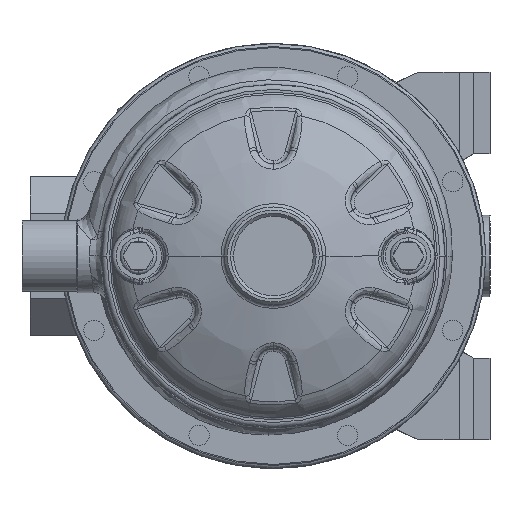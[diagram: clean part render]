
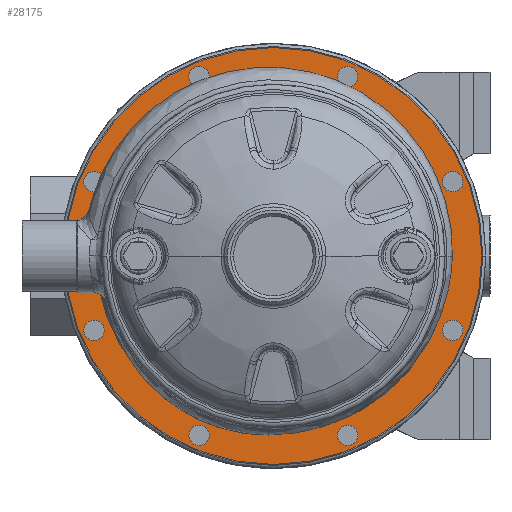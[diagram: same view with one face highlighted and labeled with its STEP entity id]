
A CAD part, left-side view. The second image highlights one B-rep face of the part: STEP entity #28175.
In plain terms, the highlighted planar face has unit normal (-1, 0, 0).
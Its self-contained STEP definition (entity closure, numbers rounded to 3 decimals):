
#19633=CARTESIAN_POINT('',(33.5,0.,
0.));
#19634=DIRECTION('',(1.,0.,0.));
#19635=DIRECTION('',(0.,-1.,0.));
#19636=AXIS2_PLACEMENT_3D('',#19633,#19634,#19635);
#19641=CARTESIAN_POINT('',(33.5,0.,
0.));
#19642=DIRECTION('',(1.,0.,0.));
#19643=DIRECTION('',(0.,1.,0.));
#19644=AXIS2_PLACEMENT_3D('',#19641,#19642,#19643);
#19649=CARTESIAN_POINT('',(33.5,0.,0.));
#19650=DIRECTION('',(-1.,0.,0.));
#19651=DIRECTION('',(0.,1.,0.));
#19652=AXIS2_PLACEMENT_3D('',#19649,#19650,#19651);
#19657=CARTESIAN_POINT('',(33.5,0.,0.));
#19658=DIRECTION('',(-1.,0.,0.));
#19659=DIRECTION('',(0.,-1.,0.));
#19660=AXIS2_PLACEMENT_3D('',#19657,#19658,#19659);
#19665=CARTESIAN_POINT('',(33.5,87.769,36.355));
#19666=DIRECTION('',(-1.,0.,0.));
#19667=DIRECTION('',(0.,0.,1.));
#19668=AXIS2_PLACEMENT_3D('',#19665,#19666,#19667);
#19673=CARTESIAN_POINT('',(33.5,87.769,36.355));
#19674=DIRECTION('',(-1.,0.,0.));
#19675=DIRECTION('',(0.,0.,-1.));
#19676=AXIS2_PLACEMENT_3D('',#19673,#19674,#19675);
#19681=CARTESIAN_POINT('',(33.5,36.355,87.769));
#19682=DIRECTION('',(-1.,0.,0.));
#19683=DIRECTION('',(0.,-0.707,0.707));
#19684=AXIS2_PLACEMENT_3D('',#19681,#19682,#19683);
#19689=CARTESIAN_POINT('',(33.5,36.355,87.769));
#19690=DIRECTION('',(-1.,0.,0.));
#19691=DIRECTION('',(0.,0.707,-0.707));
#19692=AXIS2_PLACEMENT_3D('',#19689,#19690,#19691);
#19697=CARTESIAN_POINT('',(33.5,-36.355,87.769));
#19698=DIRECTION('',(-1.,0.,0.));
#19699=DIRECTION('',(0.,-1.,0.));
#19700=AXIS2_PLACEMENT_3D('',#19697,#19698,#19699);
#19705=CARTESIAN_POINT('',(33.5,-36.355,87.769));
#19706=DIRECTION('',(-1.,0.,0.));
#19707=DIRECTION('',(0.,1.,0.));
#19708=AXIS2_PLACEMENT_3D('',#19705,#19706,#19707);
#19713=CARTESIAN_POINT('',(33.5,-87.769,36.355));
#19714=DIRECTION('',(-1.,0.,0.));
#19715=DIRECTION('',(0.,-0.707,-0.707));
#19716=AXIS2_PLACEMENT_3D('',#19713,#19714,#19715);
#19721=CARTESIAN_POINT('',(33.5,-87.769,36.355));
#19722=DIRECTION('',(-1.,0.,0.));
#19723=DIRECTION('',(0.,0.707,0.707));
#19724=AXIS2_PLACEMENT_3D('',#19721,#19722,#19723);
#19729=CARTESIAN_POINT('',(33.5,-87.769,-36.355));
#19730=DIRECTION('',(-1.,0.,0.));
#19731=DIRECTION('',(0.,0.,-1.));
#19732=AXIS2_PLACEMENT_3D('',#19729,#19730,#19731);
#19737=CARTESIAN_POINT('',(33.5,-87.769,-36.355));
#19738=DIRECTION('',(-1.,0.,0.));
#19739=DIRECTION('',(0.,0.,1.));
#19740=AXIS2_PLACEMENT_3D('',#19737,#19738,#19739);
#19745=CARTESIAN_POINT('',(33.5,-36.355,-87.769));
#19746=DIRECTION('',(-1.,0.,0.));
#19747=DIRECTION('',(0.,0.707,-0.707));
#19748=AXIS2_PLACEMENT_3D('',#19745,#19746,#19747);
#19753=CARTESIAN_POINT('',(33.5,-36.355,-87.769));
#19754=DIRECTION('',(-1.,0.,0.));
#19755=DIRECTION('',(0.,-0.707,0.707));
#19756=AXIS2_PLACEMENT_3D('',#19753,#19754,#19755);
#19761=CARTESIAN_POINT('',(33.5,36.355,-87.769));
#19762=DIRECTION('',(-1.,0.,0.));
#19763=DIRECTION('',(0.,1.,0.));
#19764=AXIS2_PLACEMENT_3D('',#19761,#19762,#19763);
#19769=CARTESIAN_POINT('',(33.5,36.355,-87.769));
#19770=DIRECTION('',(-1.,0.,0.));
#19771=DIRECTION('',(0.,-1.,0.));
#19772=AXIS2_PLACEMENT_3D('',#19769,#19770,#19771);
#19777=CARTESIAN_POINT('',(33.5,87.769,-36.355));
#19778=DIRECTION('',(-1.,0.,0.));
#19779=DIRECTION('',(0.,0.707,0.707));
#19780=AXIS2_PLACEMENT_3D('',#19777,#19778,#19779);
#19785=CARTESIAN_POINT('',(33.5,87.769,-36.355));
#19786=DIRECTION('',(-1.,0.,0.));
#19787=DIRECTION('',(0.,-0.707,-0.707));
#19788=AXIS2_PLACEMENT_3D('',#19785,#19786,#19787);
#27407=CARTESIAN_POINT('',(33.5,-86.8,
0.));
#27408=CARTESIAN_POINT('',(33.5,86.8,
0.));
#27409=VERTEX_POINT('',#27407);
#27410=VERTEX_POINT('',#27408);
#27411=CARTESIAN_POINT('',(33.5,102.,0.));
#27412=CARTESIAN_POINT('',(33.5,-102.,0.));
#27413=VERTEX_POINT('',#27411);
#27414=VERTEX_POINT('',#27412);
#27431=CARTESIAN_POINT('',(33.5,87.769,41.355));
#27432=CARTESIAN_POINT('',(33.5,87.769,31.355));
#27433=VERTEX_POINT('',#27431);
#27434=VERTEX_POINT('',#27432);
#27463=CARTESIAN_POINT('',(33.5,32.819,91.304));
#27464=VERTEX_POINT('',#27463);
#27465=CARTESIAN_POINT('',(33.5,39.89,84.233));
#27466=VERTEX_POINT('',#27465);
#27479=CARTESIAN_POINT('',(33.5,-41.355,87.769));
#27480=VERTEX_POINT('',#27479);
#27481=CARTESIAN_POINT('',(33.5,-31.355,87.769));
#27482=VERTEX_POINT('',#27481);
#27495=CARTESIAN_POINT('',(33.5,-91.304,32.819));
#27496=VERTEX_POINT('',#27495);
#27497=CARTESIAN_POINT('',(33.5,-84.233,39.89));
#27498=VERTEX_POINT('',#27497);
#27511=CARTESIAN_POINT('',(33.5,-87.769,-41.355));
#27512=VERTEX_POINT('',#27511);
#27513=CARTESIAN_POINT('',(33.5,-87.769,-31.355));
#27514=VERTEX_POINT('',#27513);
#27527=CARTESIAN_POINT('',(33.5,-32.819,-91.304));
#27528=VERTEX_POINT('',#27527);
#27529=CARTESIAN_POINT('',(33.5,-39.89,-84.233));
#27530=VERTEX_POINT('',#27529);
#27543=CARTESIAN_POINT('',(33.5,41.355,-87.769));
#27544=VERTEX_POINT('',#27543);
#27545=CARTESIAN_POINT('',(33.5,31.355,-87.769));
#27546=VERTEX_POINT('',#27545);
#27559=CARTESIAN_POINT('',(33.5,91.304,-32.819));
#27560=VERTEX_POINT('',#27559);
#27561=CARTESIAN_POINT('',(33.5,84.233,-39.89));
#27562=VERTEX_POINT('',#27561);
#28111=CARTESIAN_POINT('',(33.5,0.,0.));
#28112=DIRECTION('',(1.,0.,0.));
#28113=DIRECTION('',(0.,-1.,0.));
#28114=AXIS2_PLACEMENT_3D('',#28111,#28112,#28113);
#28115=PLANE('',#28114);
#28117=ORIENTED_EDGE('',*,*,#28116,.F.);
#28118=ORIENTED_EDGE('',*,*,#28101,.F.);
#28119=EDGE_LOOP('',(#28117,#28118));
#28120=FACE_OUTER_BOUND('',#28119,.F.);
#28122=ORIENTED_EDGE('',*,*,#28121,.F.);
#28124=ORIENTED_EDGE('',*,*,#28123,.F.);
#28125=EDGE_LOOP('',(#28122,#28124));
#28126=FACE_BOUND('',#28125,.F.);
#28128=ORIENTED_EDGE('',*,*,#28127,.T.);
#28130=ORIENTED_EDGE('',*,*,#28129,.T.);
#28131=EDGE_LOOP('',(#28128,#28130));
#28132=FACE_BOUND('',#28131,.F.);
#28134=ORIENTED_EDGE('',*,*,#28133,.T.);
#28136=ORIENTED_EDGE('',*,*,#28135,.T.);
#28137=EDGE_LOOP('',(#28134,#28136));
#28138=FACE_BOUND('',#28137,.F.);
#28140=ORIENTED_EDGE('',*,*,#28139,.T.);
#28142=ORIENTED_EDGE('',*,*,#28141,.T.);
#28143=EDGE_LOOP('',(#28140,#28142));
#28144=FACE_BOUND('',#28143,.F.);
#28146=ORIENTED_EDGE('',*,*,#28145,.T.);
#28148=ORIENTED_EDGE('',*,*,#28147,.T.);
#28149=EDGE_LOOP('',(#28146,#28148));
#28150=FACE_BOUND('',#28149,.F.);
#28152=ORIENTED_EDGE('',*,*,#28151,.T.);
#28154=ORIENTED_EDGE('',*,*,#28153,.T.);
#28155=EDGE_LOOP('',(#28152,#28154));
#28156=FACE_BOUND('',#28155,.F.);
#28158=ORIENTED_EDGE('',*,*,#28157,.T.);
#28160=ORIENTED_EDGE('',*,*,#28159,.T.);
#28161=EDGE_LOOP('',(#28158,#28160));
#28162=FACE_BOUND('',#28161,.F.);
#28164=ORIENTED_EDGE('',*,*,#28163,.T.);
#28166=ORIENTED_EDGE('',*,*,#28165,.T.);
#28167=EDGE_LOOP('',(#28164,#28166));
#28168=FACE_BOUND('',#28167,.F.);
#28170=ORIENTED_EDGE('',*,*,#28169,.T.);
#28172=ORIENTED_EDGE('',*,*,#28171,.T.);
#28173=EDGE_LOOP('',(#28170,#28172));
#28174=FACE_BOUND('',#28173,.F.);
#19637=CIRCLE('',#19636,86.8);
#19645=CIRCLE('',#19644,86.8);
#19653=CIRCLE('',#19652,102.);
#19661=CIRCLE('',#19660,102.);
#19669=CIRCLE('',#19668,5.);
#19677=CIRCLE('',#19676,5.);
#19685=CIRCLE('',#19684,5.);
#19693=CIRCLE('',#19692,5.);
#19701=CIRCLE('',#19700,5.);
#19709=CIRCLE('',#19708,5.);
#19717=CIRCLE('',#19716,5.);
#19725=CIRCLE('',#19724,5.);
#19733=CIRCLE('',#19732,5.);
#19741=CIRCLE('',#19740,5.);
#19749=CIRCLE('',#19748,5.);
#19757=CIRCLE('',#19756,5.);
#19765=CIRCLE('',#19764,5.);
#19773=CIRCLE('',#19772,5.);
#19781=CIRCLE('',#19780,5.);
#19789=CIRCLE('',#19788,5.);
#28101=EDGE_CURVE('',#27414,#27413,#19661,.T.);
#28116=EDGE_CURVE('',#27413,#27414,#19653,.T.);
#28121=EDGE_CURVE('',#27409,#27410,#19637,.T.);
#28123=EDGE_CURVE('',#27410,#27409,#19645,.T.);
#28127=EDGE_CURVE('',#27433,#27434,#19669,.T.);
#28129=EDGE_CURVE('',#27434,#27433,#19677,.T.);
#28133=EDGE_CURVE('',#27464,#27466,#19685,.T.);
#28135=EDGE_CURVE('',#27466,#27464,#19693,.T.);
#28139=EDGE_CURVE('',#27480,#27482,#19701,.T.);
#28141=EDGE_CURVE('',#27482,#27480,#19709,.T.);
#28145=EDGE_CURVE('',#27496,#27498,#19717,.T.);
#28147=EDGE_CURVE('',#27498,#27496,#19725,.T.);
#28151=EDGE_CURVE('',#27512,#27514,#19733,.T.);
#28153=EDGE_CURVE('',#27514,#27512,#19741,.T.);
#28157=EDGE_CURVE('',#27528,#27530,#19749,.T.);
#28159=EDGE_CURVE('',#27530,#27528,#19757,.T.);
#28163=EDGE_CURVE('',#27544,#27546,#19765,.T.);
#28165=EDGE_CURVE('',#27546,#27544,#19773,.T.);
#28169=EDGE_CURVE('',#27560,#27562,#19781,.T.);
#28171=EDGE_CURVE('',#27562,#27560,#19789,.T.);
#28175=ADVANCED_FACE('',(#28120,#28126,#28132,#28138,#28144,#28150,#28156,
#28162,#28168,#28174),#28115,.F.);
